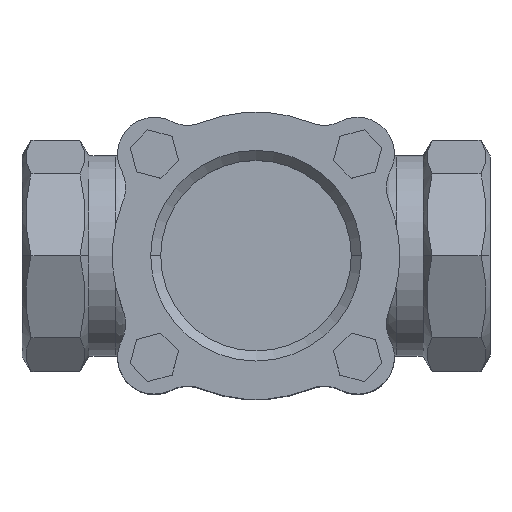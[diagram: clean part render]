
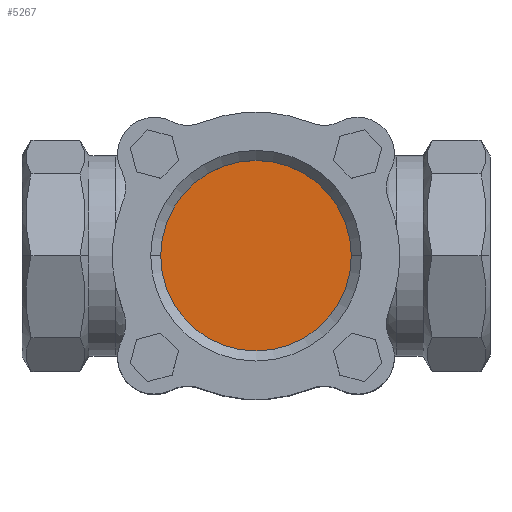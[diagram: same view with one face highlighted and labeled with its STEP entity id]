
A CAD part, top view. The second image highlights one B-rep face of the part: STEP entity #5267.
In plain terms, the highlighted planar face has unit normal (0, 0, 1).
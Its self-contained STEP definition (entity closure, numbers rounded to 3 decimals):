
#187 = AXIS2_PLACEMENT_3D ( 'NONE', #5659, #6193, #1106 ) ;
#429 = DIRECTION ( 'NONE',  ( 1., 0., 0. ) ) ;
#700 = PLANE ( 'NONE',  #187 ) ;
#1106 = DIRECTION ( 'NONE',  ( 1., 0., 0. ) ) ;
#1721 = DIRECTION ( 'NONE',  ( 1., 0., 0. ) ) ;
#1764 = EDGE_CURVE ( 'NONE', #4359, #2679, #4784, .T. ) ;
#2215 = CARTESIAN_POINT ( 'NONE',  ( 0., 0., 44.8 ) ) ;
#2436 = CIRCLE ( 'NONE', #5618, 28.5 ) ;
#2679 = VERTEX_POINT ( 'NONE', #6078 ) ;
#2962 = CARTESIAN_POINT ( 'NONE',  ( 0., 0., 44.8 ) ) ;
#3460 = DIRECTION ( 'NONE',  ( 0., 0., 1. ) ) ;
#3826 = AXIS2_PLACEMENT_3D ( 'NONE', #2962, #3460, #429 ) ;
#3923 = CARTESIAN_POINT ( 'NONE',  ( -28.5, 0., 44.8 ) ) ;
#4029 = EDGE_LOOP ( 'NONE', ( #6103, #6042 ) ) ;
#4236 = DIRECTION ( 'NONE',  ( 0., 0., 1. ) ) ;
#4359 = VERTEX_POINT ( 'NONE', #3923 ) ;
#4784 = CIRCLE ( 'NONE', #3826, 28.5 ) ;
#5007 = EDGE_CURVE ( 'NONE', #2679, #4359, #2436, .T. ) ;
#5267 = ADVANCED_FACE ( 'NONE', ( #6164 ), #700, .T. ) ;
#5618 = AXIS2_PLACEMENT_3D ( 'NONE', #2215, #4236, #1721 ) ;
#5659 = CARTESIAN_POINT ( 'NONE',  ( 0., 28.5, 44.8 ) ) ;
#6042 = ORIENTED_EDGE ( 'NONE', *, *, #1764, .T. ) ;
#6078 = CARTESIAN_POINT ( 'NONE',  ( 28.5, 0., 44.8 ) ) ;
#6103 = ORIENTED_EDGE ( 'NONE', *, *, #5007, .T. ) ;
#6164 = FACE_OUTER_BOUND ( 'NONE', #4029, .T. ) ;
#6193 = DIRECTION ( 'NONE',  ( 0., 0., 1. ) ) ;
